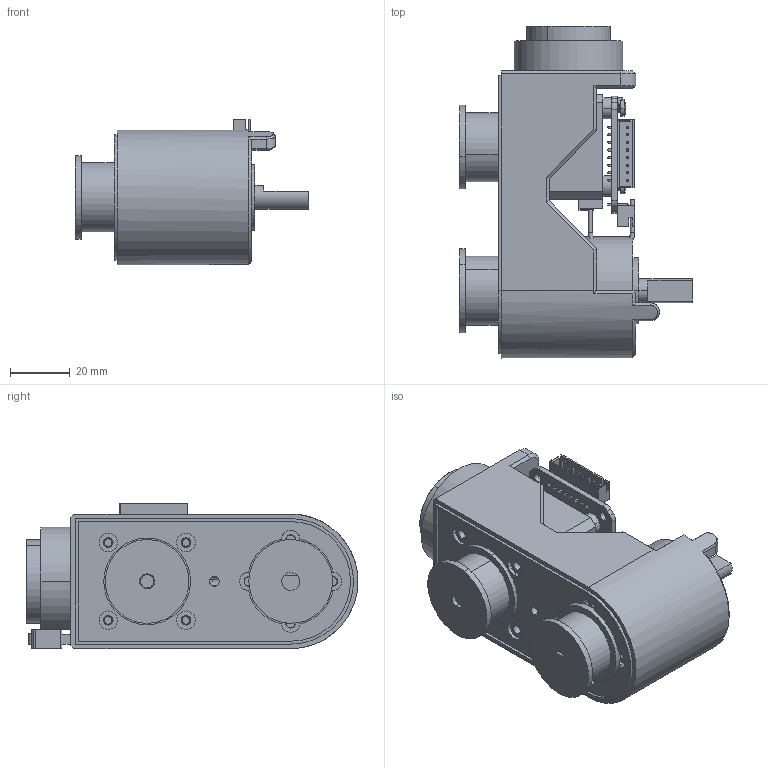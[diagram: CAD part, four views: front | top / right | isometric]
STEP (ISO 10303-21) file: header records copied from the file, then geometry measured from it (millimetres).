
FILE_DESCRIPTION(('Open CASCADE Model'),'2;1');
FILE_NAME('Open CASCADE Shape Model','2026-09-19T11:07:57',('Author'),( 'Open CASCADE'),'Open CASCADE STEP processor 7.9','Open CASCADE 7.9' ,'Unknown');
FILE_SCHEMA(('AUTOMOTIVE_DESIGN { 1 0 10303 214 1 1 1 1 }'));
Length unit declared in the file: millimetre
Products named in the file (33): Open CASCADE STEP translator 7.9 55; Open CASCADE STEP translator 7.9 55.1; Open CASCADE STEP translator 7.9 55.2; Open CASCADE STEP translator 7.9 55.2.1; Open CASCADE STEP translator 7.9 55.2.1.1; Open CASCADE STEP translator 7.9 55.2.1.1.1; Open CASCADE STEP translator 7.9 55.2.1.1.2; Open CASCADE STEP translator 7.9 55.2.1.1.2.1; Open CASCADE STEP translator 7.9 55.2.1.1.2.1.1; Open CASCADE STEP translator 7.9 55.2.1.1.2.1.2; Open CASCADE STEP translator 7.9 55.2.1.1.2.1.3; Open CASCADE STEP translator 7.9 55.2.1.1.3; Open CASCADE STEP translator 7.9 55.2.1.1.4; Open CASCADE STEP translator 7.9 55.2.1.1.4.1; Open CASCADE STEP translator 7.9 55.2.1.1.4.2; Open CASCADE STEP translator 7.9 55.2.1.1.5; Open CASCADE STEP translator 7.9 55.2.1.1.6; Open CASCADE STEP translator 7.9 55.2.1.2; Open CASCADE STEP translator 7.9 55.2.1.2.1; Open CASCADE STEP translator 7.9 55.2.1.2.2; Open CASCADE STEP translator 7.9 55.2.1.3; Open CASCADE STEP translator 7.9 55.2.1.7; Open CASCADE STEP translator 7.9 55.2.1.11; Open CASCADE STEP translator 7.9 55.2.1.11.1; Open CASCADE STEP translator 7.9 55.2.1.11.2; Open CASCADE STEP translator 7.9 55.2.1.11.3; Open CASCADE STEP translator 7.9 55.2.1.11.4; Open CASCADE STEP translator 7.9 55.3; Open CASCADE STEP translator 7.9 55.4; Open CASCADE STEP translator 7.9 55.5; Open CASCADE STEP translator 7.9 55.6; Open CASCADE STEP translator 7.9 55.7; Open CASCADE STEP translator 7.9 55.8
Assembly tree (39 placements, depth 7):
  Open CASCADE STEP translator 7.9 55
    Open CASCADE STEP translator 7.9 55.1
    Open CASCADE STEP translator 7.9 55.2
      Open CASCADE STEP translator 7.9 55.2.1
        Open CASCADE STEP translator 7.9 55.2.1.1
          Open CASCADE STEP translator 7.9 55.2.1.1.1
          Open CASCADE STEP translator 7.9 55.2.1.1.2
            Open CASCADE STEP translator 7.9 55.2.1.1.2.1
              Open CASCADE STEP translator 7.9 55.2.1.1.2.1.1
              Open CASCADE STEP translator 7.9 55.2.1.1.2.1.2
              Open CASCADE STEP translator 7.9 55.2.1.1.2.1.3
          Open CASCADE STEP translator 7.9 55.2.1.1.3
          Open CASCADE STEP translator 7.9 55.2.1.1.4
            Open CASCADE STEP translator 7.9 55.2.1.1.4.1
            Open CASCADE STEP translator 7.9 55.2.1.1.4.2
          Open CASCADE STEP translator 7.9 55.2.1.1.5
          Open CASCADE STEP translator 7.9 55.2.1.1.6
        Open CASCADE STEP translator 7.9 55.2.1.2
          Open CASCADE STEP translator 7.9 55.2.1.2.1
          Open CASCADE STEP translator 7.9 55.2.1.2.2
        Open CASCADE STEP translator 7.9 55.2.1.3  x4
        Open CASCADE STEP translator 7.9 55.2.1.7  x4
        Open CASCADE STEP translator 7.9 55.2.1.11
          Open CASCADE STEP translator 7.9 55.2.1.11.1
          Open CASCADE STEP translator 7.9 55.2.1.11.2
          Open CASCADE STEP translator 7.9 55.2.1.11.3
          Open CASCADE STEP translator 7.9 55.2.1.11.4
    Open CASCADE STEP translator 7.9 55.3
    Open CASCADE STEP translator 7.9 55.4
    Open CASCADE STEP translator 7.9 55.5
    Open CASCADE STEP translator 7.9 55.6
    Open CASCADE STEP translator 7.9 55.7
    Open CASCADE STEP translator 7.9 55.8  x2
Bounding box: 78 x 111 x 48.7 mm (x, y, z)
Volume: 158727.3 mm3; surface area: 60997.8 mm2
Topology: 31 solids, 31 shells, 2393 faces, 6388 edges, 4192 vertices
Faces by surface type: plane 1759, cylinder 523, cone 51, bspline 40, torus 20
Entity records: 151768 total; most frequent: CARTESIAN_POINT 32745, DIRECTION 22155, LINE 15559, VECTOR 15559, ORIENTED_EDGE 11708, PCURVE 11708, DEFINITIONAL_REPRESENTATION 11708, EDGE_CURVE 5854
